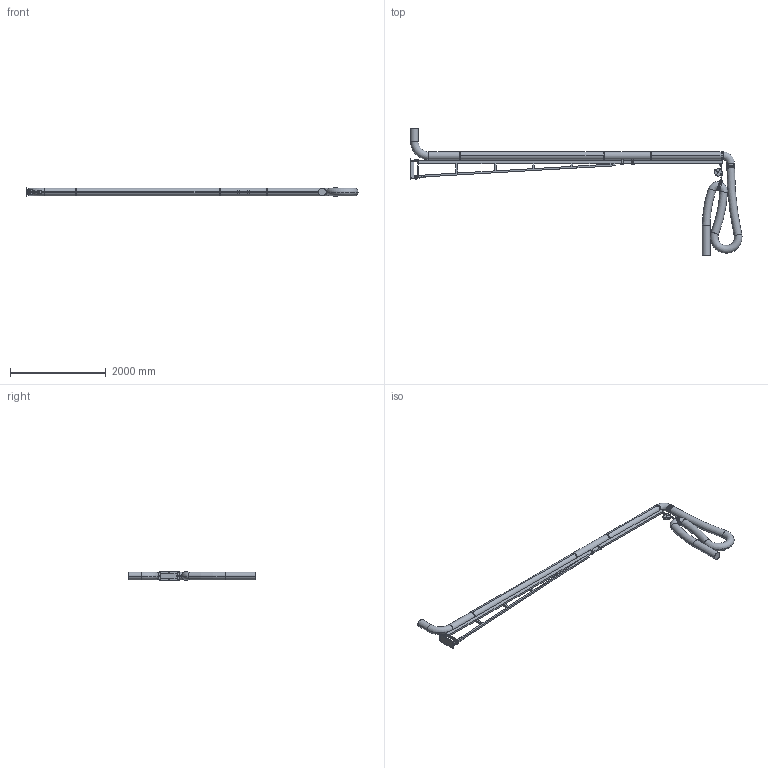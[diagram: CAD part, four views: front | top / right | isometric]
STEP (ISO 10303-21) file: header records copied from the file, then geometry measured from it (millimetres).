
FILE_DESCRIPTION((''),'2;1');
FILE_NAME('104004','2022-08-16T15:31:32',('Tomas Bellgran'),(''),'CREO PARAMETRIC BY PTC INC, 2018260','CREO PARAMETRIC BY PTC INC, 2018260','');
FILE_SCHEMA(('AUTOMOTIVE_DESIGN { 1 0 10303 214 1 1 1 1 }'));
Length unit declared in the file: millimetre
Products named in the file (49): 102-201_LIGHT; 102-302_LIGHT; 100-322_LIGHT; 199-502-01; 102-319; 199-502; 134374; 139475; 133941; 101252; 133947; 104681_AF37; G_NPU_COUPLING_XX; 104680; 100-643; 110569; 100-642-REF; 100-642; 100-5425A; 100-641; 9900438; 9900055; 110579; 100202_HOUSE; 100202_RING; 100202_BALL; 100202; LOCK_NUT_M12_DIN6924-REF; LOCK_NUT_M12_DIN6924_PL-REF; 100120; 100-645; 127962-1-REF; 127962; 124302; 101446; 133967; RF300_L; 109050-1-REF; 109050-2-REF; 109050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
Assembly tree (69 placements, depth 4):
  104004
    102-201_LIGHT
    102-302_LIGHT
    100-322_LIGHT
    199-502
      199-502-01
      102-319
    134374  x2
    139475  x2
    133941
    101252
    133947
    104681_AF37
    G_NPU_COUPLING_XX  x2
    104680
    100-645
      100-642
        100-643
        110569
        100-642-REF
      100-5425A
      100-641
      9900438  x2
      9900055  x2
      110579
      100202
        100202_HOUSE
        100202_RING  x2
        100202_BALL  x16
      100120
        LOCK_NUT_M12_DIN6924-REF
        LOCK_NUT_M12_DIN6924_PL-REF
    127962
      127962-1-REF
    124302
    101446
    133967
    109017
      RF300_L
      109050
        109050-1-REF
        109050-2-REF
    109053
      109053-1-REF
      109053-2-REF
    104682
    129023
    108775_AF11
    115263
Bounding box: 6923.63 x 2662.06 x 183.06 mm (x, y, z)
Volume: 279709959.1 mm3; surface area: 9506294.9 mm2
Topology: 60 solids, 70 shells, 1033 faces, 2498 edges, 1581 vertices
Faces by surface type: plane 407, cylinder 324, cone 156, torus 76, sphere 42, bspline 28
Entity records: 49205 total; most frequent: CARTESIAN_POINT 13025, DIRECTION 6198, ORIENTED_EDGE 4118, AXIS2_PLACEMENT_3D 2442, PRESENTATION_STYLE_ASSIGNMENT 2157, STYLED_ITEM 2151, EDGE_CURVE 2074, CURVE_STYLE 1715
